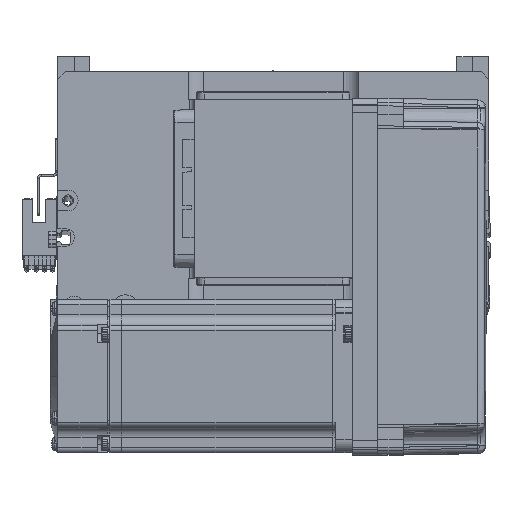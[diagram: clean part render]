
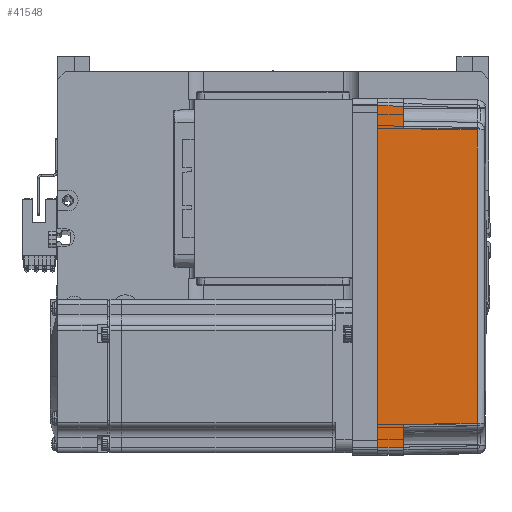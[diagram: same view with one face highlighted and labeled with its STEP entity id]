
A CAD part, top view. The second image highlights one B-rep face of the part: STEP entity #41548.
In plain terms, the highlighted planar face has unit normal (0.018, 0, 1) as drawn and (0, 1, 0.017) by its records, which use the part's own axes.
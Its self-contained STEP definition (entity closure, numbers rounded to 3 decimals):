
#653 = VECTOR ( 'NONE', #16544, 1000. ) ;
#1293 = VECTOR ( 'NONE', #28663, 1000. ) ;
#1660 = CARTESIAN_POINT ( 'NONE',  ( 70., 35.825, 10. ) ) ;
#2348 = LINE ( 'NONE', #31172, #52614 ) ;
#3166 = EDGE_CURVE ( 'NONE', #61888, #42155, #52786, .T. ) ;
#4003 = DIRECTION ( 'NONE',  ( 0., -0.017, 1. ) ) ;
#4077 = CARTESIAN_POINT ( 'NONE',  ( -57.495, 35.32, 38.985 ) ) ;
#7367 = CARTESIAN_POINT ( 'NONE',  ( 66.826, 35.825, 10. ) ) ;
#7474 = DIRECTION ( 'NONE',  ( -0.017, -0.017, 1. ) ) ;
#7500 = LINE ( 'NONE', #16328, #653 ) ;
#8152 = CARTESIAN_POINT ( 'NONE',  ( -58., 35.825, 10. ) ) ;
#9064 = CARTESIAN_POINT ( 'NONE',  ( 57.495, 35.32, 38.985 ) ) ;
#9405 = CARTESIAN_POINT ( 'NONE',  ( 57.495, 35.32, 38.985 ) ) ;
#10035 = DIRECTION ( 'NONE',  ( 0.017, -0.017, 1. ) ) ;
#11027 = CARTESIAN_POINT ( 'NONE',  ( -66.826, 35.825, 10. ) ) ;
#11680 = FACE_OUTER_BOUND ( 'NONE', #58447, .T. ) ;
#12633 = ORIENTED_EDGE ( 'NONE', *, *, #51314, .T. ) ;
#13066 = VERTEX_POINT ( 'NONE', #30065 ) ;
#14020 = VECTOR ( 'NONE', #7474, 1000. ) ;
#16328 = CARTESIAN_POINT ( 'NONE',  ( -58., 35.825, 10. ) ) ;
#16544 = DIRECTION ( 'NONE',  ( 0.017, -0.017, 1. ) ) ;
#17345 = CARTESIAN_POINT ( 'NONE',  ( 70., 35.825, 10. ) ) ;
#18639 = ORIENTED_EDGE ( 'NONE', *, *, #43153, .F. ) ;
#18844 = CARTESIAN_POINT ( 'NONE',  ( -67., 36., 0. ) ) ;
#19901 = AXIS2_PLACEMENT_3D ( 'NONE', #37386, #32929, #4003 ) ;
#22019 = DIRECTION ( 'NONE',  ( 1., 0., 0. ) ) ;
#22045 = VECTOR ( 'NONE', #35696, 1000. ) ;
#22624 = CARTESIAN_POINT ( 'NONE',  ( 67.001, 36.001, -0.052 ) ) ;
#23555 = CARTESIAN_POINT ( 'NONE',  ( 57.495, 35.32, 38.985 ) ) ;
#25884 = LINE ( 'NONE', #18844, #34167 ) ;
#27492 = ORIENTED_EDGE ( 'NONE', *, *, #62940, .T. ) ;
#27509 = CARTESIAN_POINT ( 'NONE',  ( 67., 36., 0. ) ) ;
#27880 = ORIENTED_EDGE ( 'NONE', *, *, #32563, .T. ) ;
#28129 = VECTOR ( 'NONE', #22019, 1000. ) ;
#28663 = DIRECTION ( 'NONE',  ( 0.017, 0.017, -1. ) ) ;
#29489 = B_SPLINE_CURVE_WITH_KNOTS ( 'NONE', 3,
 ( #4077, #33195, #62145, #9405 ),
 .UNSPECIFIED., .F., .F.,
 ( 4, 4 ),
 ( 0., 1. ),
 .UNSPECIFIED. ) ;
#29628 = CARTESIAN_POINT ( 'NONE',  ( -57.495, 35.32, 38.985 ) ) ;
#30065 = CARTESIAN_POINT ( 'NONE',  ( -67., 36., 0. ) ) ;
#31172 = CARTESIAN_POINT ( 'NONE',  ( 0., 36., 0. ) ) ;
#32563 = EDGE_CURVE ( 'NONE', #44401, #43903, #7500, .T. ) ;
#32929 = DIRECTION ( 'NONE',  ( 0., 1., 0.017 ) ) ;
#33195 = CARTESIAN_POINT ( 'NONE',  ( -19.165, 35.316, 39.181 ) ) ;
#34167 = VECTOR ( 'NONE', #10035, 1000. ) ;
#35177 = ORIENTED_EDGE ( 'NONE', *, *, #51576, .T. ) ;
#35651 = LINE ( 'NONE', #1660, #22045 ) ;
#35696 = DIRECTION ( 'NONE',  ( 1., 0., 0. ) ) ;
#35899 = ORIENTED_EDGE ( 'NONE', *, *, #62243, .T. ) ;
#37386 = CARTESIAN_POINT ( 'NONE',  ( 70., 36., 0. ) ) ;
#37744 = CARTESIAN_POINT ( 'NONE',  ( 58., 35.825, 10. ) ) ;
#41548 = ADVANCED_FACE ( 'NONE', ( #11680 ), #57788, .T. ) ;
#42155 = VERTEX_POINT ( 'NONE', #7367 ) ;
#43153 = EDGE_CURVE ( 'NONE', #13066, #61888, #2348, .T. ) ;
#43903 = VERTEX_POINT ( 'NONE', #29628 ) ;
#44401 = VERTEX_POINT ( 'NONE', #8152 ) ;
#48703 = LINE ( 'NONE', #17345, #28129 ) ;
#51314 = EDGE_CURVE ( 'NONE', #57041, #42155, #48703, .T. ) ;
#51576 = EDGE_CURVE ( 'NONE', #13066, #55972, #25884, .T. ) ;
#52614 = VECTOR ( 'NONE', #56034, 1000. ) ;
#52786 = LINE ( 'NONE', #22624, #14020 ) ;
#53869 = LINE ( 'NONE', #9064, #1293 ) ;
#55684 = ORIENTED_EDGE ( 'NONE', *, *, #56929, .T. ) ;
#55761 = ORIENTED_EDGE ( 'NONE', *, *, #3166, .F. ) ;
#55972 = VERTEX_POINT ( 'NONE', #11027 ) ;
#56034 = DIRECTION ( 'NONE',  ( 1., 0., 0. ) ) ;
#56929 = EDGE_CURVE ( 'NONE', #61496, #57041, #53869, .T. ) ;
#57041 = VERTEX_POINT ( 'NONE', #37744 ) ;
#57788 = PLANE ( 'NONE',  #19901 ) ;
#58447 = EDGE_LOOP ( 'NONE', ( #35177, #35899, #27880, #27492, #55684, #12633, #55761, #18639 ) ) ;
#61496 = VERTEX_POINT ( 'NONE', #23555 ) ;
#61888 = VERTEX_POINT ( 'NONE', #27509 ) ;
#62145 = CARTESIAN_POINT ( 'NONE',  ( 19.165, 35.316, 39.181 ) ) ;
#62243 = EDGE_CURVE ( 'NONE', #55972, #44401, #35651, .T. ) ;
#62940 = EDGE_CURVE ( 'NONE', #43903, #61496, #29489, .T. ) ;
